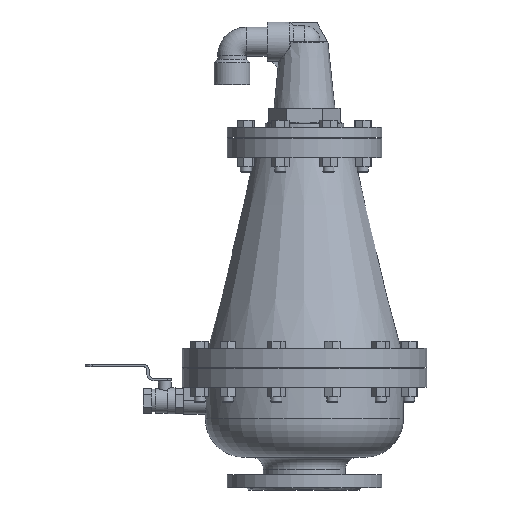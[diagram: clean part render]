
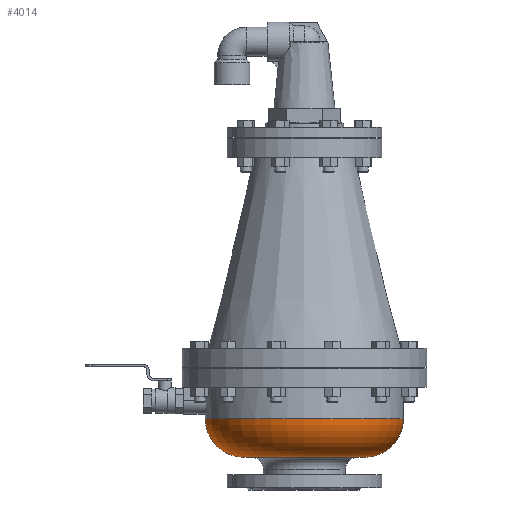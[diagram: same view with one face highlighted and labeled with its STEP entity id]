
A CAD part, left-side view. The second image highlights one B-rep face of the part: STEP entity #4014.
In plain terms, the highlighted toroidal (fillet/blend) face has major radius 86 mm and minor radius 55 mm.
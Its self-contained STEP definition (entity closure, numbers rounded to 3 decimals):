
#4014=ADVANCED_FACE('',(#8662,#8664),#8666,.T.);
#8662=FACE_OUTER_BOUND('',#8663,.T.);
#8663=EDGE_LOOP('',(#12251));
#8664=FACE_OUTER_BOUND('',#8665,.T.);
#8665=EDGE_LOOP('',(#12252));
#8666=TOROIDAL_SURFACE('',#8667,86.,55.);
#8667=AXIS2_PLACEMENT_3D('',#8668,#8669,#8670);
#8668=CARTESIAN_POINT('',(0.,0.,101.59));
#8669=DIRECTION('',(0.,0.,-1.));
#8670=DIRECTION('',(-1.,0.,0.));
#12251=ORIENTED_EDGE('',*,*,#14094,.F.);
#12252=ORIENTED_EDGE('',*,*,#14055,.T.);
#14055=EDGE_CURVE('',#16275,#16275,#16276,.T.);
#14094=EDGE_CURVE('',#16345,#16345,#16346,.T.);
#16275=VERTEX_POINT('',#21670);
#16276=CIRCLE('',#21671,141.);
#16345=VERTEX_POINT('',#22077);
#16346=CIRCLE('',#22078,86.);
#21670=CARTESIAN_POINT('',(-141.,0.,101.59));
#21671=AXIS2_PLACEMENT_3D('',#21672,#21673,#21674);
#21672=CARTESIAN_POINT('',(0.,0.,101.59));
#21673=DIRECTION('',(0.,0.,-1.));
#21674=DIRECTION('',(-1.,0.,0.));
#22077=CARTESIAN_POINT('',(-86.,0.,46.59));
#22078=AXIS2_PLACEMENT_3D('',#22079,#22080,#22081);
#22079=CARTESIAN_POINT('',(0.,0.,46.59));
#22080=DIRECTION('',(0.,0.,-1.));
#22081=DIRECTION('',(-1.,0.,0.));
